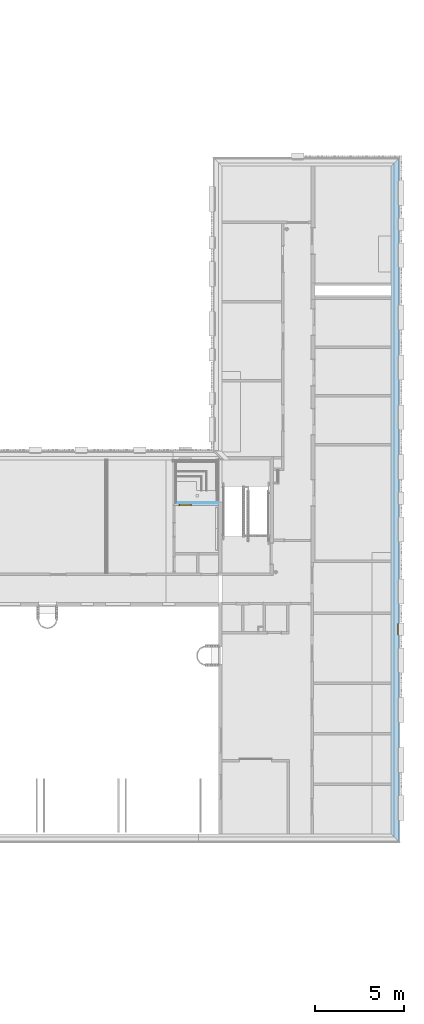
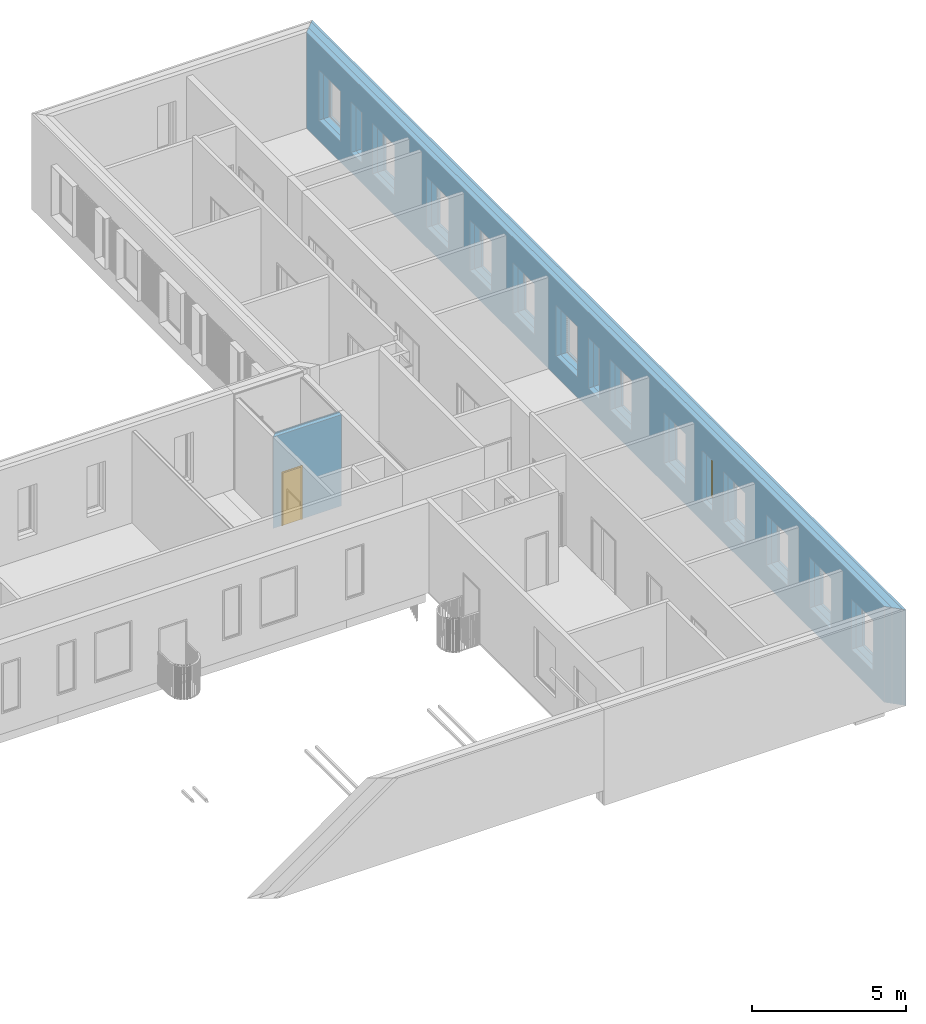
# One storey, part 69 of 100: 1 door, 1 window, 16 openings, 2 elements without a shape of their own, plus 7 elements that do not belong to this part.
"""IFC2X3 building model written with IfcOpenShell, lengths in millimetres."""

from ifc_helpers import new_model, entity, si_unit, converted_unit, derived_unit, money_unit, direction, frame, origin_with_axes, origin_2d_with_axis, place, context, subcontext, project, spatial, polyline, rectangle, outline, extrude, open_shell, faceted_brep, surface_model, material, type_object, element, fill, aggregate, save


model = new_model("IFC2X3")

# Units and contexts
model_context = context("Model", 3, precision=0.01, world=origin_with_axes(), true_north=direction((0.0, 1.0)))
body_context = subcontext(model_context, "Body", "Model", "MODEL_VIEW")
ifc_project = project(units=[si_unit("LENGTHUNIT", "METRE", prefix="MILLI"), si_unit("AREAUNIT", "SQUARE_METRE"), si_unit("VOLUMEUNIT", "CUBIC_METRE"), converted_unit("PLANEANGLEUNIT", "DEGREE", entity("IfcPlaneAngleMeasure", 0.0174532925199), si_unit("PLANEANGLEUNIT", "RADIAN"), dimensions=[0, 0, 0, 0, 0, 0, 0]), si_unit("SOLIDANGLEUNIT", "STERADIAN"), money_unit("EUR"), converted_unit("TIMEUNIT", "Year", entity("IfcTimeMeasure", 31556926.0), si_unit("TIMEUNIT", "SECOND"), dimensions=[0, 0, 1, 0, 0, 0, 0]), si_unit("MASSUNIT", "GRAM", prefix="KILO"), si_unit("THERMODYNAMICTEMPERATUREUNIT", "DEGREE_CELSIUS"), si_unit("LUMINOUSINTENSITYUNIT", "LUMEN"), si_unit("ENERGYUNIT", "JOULE", prefix="MEGA"), derived_unit("THERMALCONDUCTANCEUNIT", [(si_unit("POWERUNIT", "WATT"), 1), (si_unit("LENGTHUNIT", "METRE"), -1), (si_unit("THERMODYNAMICTEMPERATUREUNIT", "KELVIN"), -1)]), derived_unit("SPECIFICHEATCAPACITYUNIT", [(si_unit("ENERGYUNIT", "JOULE"), 1), (si_unit("MASSUNIT", "GRAM", prefix="KILO"), -1), (si_unit("THERMODYNAMICTEMPERATUREUNIT", "KELVIN"), -1)]), derived_unit("MASSDENSITYUNIT", [(si_unit("MASSUNIT", "GRAM", prefix="KILO"), 1), (si_unit("VOLUMEUNIT", "CUBIC_METRE"), -1)])], contexts=[model_context])

# Site, building, storey
site_placement = place(None, origin_with_axes())
site = spatial("IfcSite", under=ifc_project, at=site_placement, Name="Politse- ja Piirivalveameti ning Päästeameti ühishoone", CompositionType="ELEMENT")
building_placement = place(site_placement, origin_with_axes())
building = spatial("IfcBuilding", under=site, at=building_placement, Name="Politse- ja Piirivalveameti ning Päästeameti ühishoone", CompositionType="ELEMENT")
storey_placement = place(building_placement, frame((0.0, 0.0, 3800.0), z_axis=(0.0, 0.0, 1.0), x_axis=(1.0, 0.0, 0.0)))
storey = spatial("IfcBuildingStorey", under=building, at=storey_placement, Name="Teine korrus", CompositionType="ELEMENT", Elevation=3800.0)

# Window
window_style = type_object("IfcWindowStyle", Name="Window 23", ConstructionType="NOTDEFINED", OperationType="SINGLE_PANEL", ParameterTakesPrecedence=False, Sizeable=False)
wall_1_placement = place(storey_placement, frame((69660.5664257, 37499.9521318, 0.0), z_axis=(0.0, 0.0, 1.0), x_axis=(0.0, -1.0, 0.0)))
opening_13_placement = place(wall_1_placement, frame((26000.0000486, 0.0, 800.0), z_axis=(0.0, 0.0, 1.0), x_axis=(1.0, 0.0, 0.0)))
window_placement = place(opening_13_placement, frame((350.0, 0.0, 0.0), z_axis=(0.0, 0.0, 1.0), x_axis=(-1.0, 0.0, 0.0)))
window = element("IfcWindow", 1, at=window_placement, inside=storey, type_object=window_style, Name="A-01", ObjectType="WINDOW", OverallHeight=2000.0, OverallWidth=700.0, context=body_context, shape_type="SurfaceModel", body=[
    faceted_brep([(25.0, -380.0, 1950.0), (0.0, -380.0, 1950.0), (0.0, -430.0, 1950.0), (50.0, -430.0, 1950.0), (50.0, -405.0, 1950.0), (25.0, -405.0, 1950.0), (25.0, -380.0, 50.0), (0.0, -380.0, 50.0), (0.0, -430.0, 50.0), (50.0, -430.0, 50.0), (50.0, -405.0, 50.0), (25.0, -405.0, 50.0)], [[[0, 1, 2, 3, 4, 5]], [[6, 7, 1, 0]], [[1, 7, 8, 2]], [[2, 8, 9, 3]], [[4, 3, 9, 10]], [[10, 11, 5, 4]], [[5, 11, 6, 0]], [[11, 10, 9, 8, 7, 6]]]),
    faceted_brep([(650.0, -405.0, 1950.0), (650.0, -430.0, 1950.0), (700.0, -430.0, 1950.0), (700.0, -380.0, 1950.0), (675.0, -380.0, 1950.0), (675.0, -405.0, 1950.0), (650.0, -405.0, 50.0), (650.0, -430.0, 50.0), (700.0, -430.0, 50.0), (700.0, -380.0, 50.0), (675.0, -380.0, 50.0), (675.0, -405.0, 50.0)], [[[0, 1, 2, 3, 4, 5]], [[6, 7, 1, 0]], [[8, 2, 1, 7]], [[9, 3, 2, 8]], [[4, 3, 9, 10]], [[10, 11, 5, 4]], [[5, 11, 6, 0]], [[11, 10, 9, 8, 7, 6]]]),
    faceted_brep([(650.0, -405.0, 50.0), (650.0, -430.0, 50.0), (700.0, -430.0, 50.0), (700.0, -380.0, 50.0), (675.0, -380.0, 50.0), (675.0, -405.0, 50.0), (50.0, -405.0, 50.0), (50.0, -430.0, 50.0), (0.0, -430.0, 50.0), (0.0, -430.0, 0.0), (700.0, -430.0, 0.0), (700.0, -380.0, 0.0), (25.0, -380.0, 25.0), (675.0, -380.0, 25.0), (0.0, -380.0, 0.0), (0.0, -380.0, 50.0), (25.0, -380.0, 50.0), (675.0, -405.0, 25.0), (25.0, -405.0, 25.0), (25.0, -405.0, 50.0)], [[[0, 1, 2, 3, 4, 5]], [[6, 7, 1, 0]], [[8, 9, 10, 2, 1, 7]], [[11, 3, 2, 10]], [[12, 13, 4, 3, 11, 14, 15, 16]], [[13, 17, 5, 4]], [[5, 17, 18, 19, 6, 0]], [[19, 16, 15, 8, 7, 6]], [[15, 14, 9, 8]], [[14, 11, 10, 9]], [[12, 18, 17, 13]], [[19, 18, 12, 16]]]),
    faceted_brep([(25.0, -380.0, 1950.0), (0.0, -380.0, 1950.0), (0.0, -380.0, 2000.0), (700.0, -380.0, 2000.0), (700.0, -380.0, 1950.0), (675.0, -380.0, 1950.0), (675.0, -380.0, 1975.0), (25.0, -380.0, 1975.0), (25.0, -405.0, 1950.0), (50.0, -405.0, 1950.0), (50.0, -430.0, 1950.0), (0.0, -430.0, 1950.0), (0.0, -430.0, 2000.0), (700.0, -430.0, 2000.0), (700.0, -430.0, 1950.0), (675.0, -405.0, 1950.0), (650.0, -430.0, 1950.0), (650.0, -405.0, 1950.0), (675.0, -405.0, 1975.0), (25.0, -405.0, 1975.0)], [[[0, 1, 2, 3, 4, 5, 6, 7]], [[8, 9, 10, 11, 1, 0]], [[2, 1, 11, 12]], [[3, 2, 12, 13]], [[4, 3, 13, 14]], [[15, 5, 4, 14, 16, 17]], [[5, 15, 18, 6]], [[6, 18, 19, 7]], [[7, 19, 8, 0]], [[17, 9, 8, 19, 18, 15]], [[17, 16, 10, 9]], [[14, 13, 12, 11, 10, 16]]]),
    faceted_brep([(75.0, -405.0, 1925.0), (75.0, -355.0, 1925.0), (25.0, -355.0, 1925.0), (25.0, -405.0, 1925.0), (75.0, -405.0, 75.0), (75.0, -355.0, 75.0), (25.0, -355.0, 75.0), (25.0, -405.0, 75.0)], [[[0, 1, 2, 3]], [[4, 5, 1, 0]], [[1, 5, 6, 2]], [[3, 2, 6, 7]], [[0, 3, 7, 4]], [[7, 6, 5, 4]]]),
    faceted_brep([(625.0, -405.0, 75.0), (625.0, -355.0, 75.0), (675.0, -355.0, 75.0), (675.0, -405.0, 75.0), (625.0, -405.0, 1925.0), (625.0, -355.0, 1925.0), (675.0, -355.0, 1925.0), (675.0, -405.0, 1925.0)], [[[0, 1, 2, 3]], [[4, 5, 1, 0]], [[1, 5, 6, 2]], [[3, 2, 6, 7]], [[0, 3, 7, 4]], [[7, 6, 5, 4]]]),
    faceted_brep([(675.0, -405.0, 25.0), (675.0, -355.0, 25.0), (675.0, -355.0, 75.0), (675.0, -405.0, 75.0), (25.0, -405.0, 25.0), (25.0, -355.0, 25.0), (25.0, -355.0, 75.0), (75.0, -355.0, 75.0), (625.0, -355.0, 75.0), (625.0, -405.0, 75.0), (75.0, -405.0, 75.0), (25.0, -405.0, 75.0)], [[[0, 1, 2, 3]], [[4, 5, 1, 0]], [[1, 5, 6, 7, 8, 2]], [[3, 2, 8, 9]], [[0, 3, 9, 10, 11, 4]], [[11, 6, 5, 4]], [[10, 7, 6, 11]], [[9, 8, 7, 10]]]),
    faceted_brep([(25.0, -405.0, 1975.0), (25.0, -355.0, 1975.0), (25.0, -355.0, 1925.0), (25.0, -405.0, 1925.0), (675.0, -405.0, 1975.0), (675.0, -355.0, 1975.0), (675.0, -355.0, 1925.0), (625.0, -355.0, 1925.0), (75.0, -355.0, 1925.0), (75.0, -405.0, 1925.0), (625.0, -405.0, 1925.0), (675.0, -405.0, 1925.0)], [[[0, 1, 2, 3]], [[4, 5, 1, 0]], [[1, 5, 6, 7, 8, 2]], [[3, 2, 8, 9]], [[0, 3, 9, 10, 11, 4]], [[11, 6, 5, 4]], [[10, 7, 6, 11]], [[9, 8, 7, 10]]]),
    surface_model("IfcShellBasedSurfaceModel", [(75.0, -390.0, 75.0), (625.0, -390.0, 75.0), (625.0, -390.0, 1925.0), (75.0, -390.0, 1925.0)], [open_shell([[[0, 1, 2, 3]]])]),
    surface_model("IfcShellBasedSurfaceModel", [(75.0, -370.0, 75.0), (75.0, -370.0, 1925.0), (625.0, -370.0, 1925.0), (625.0, -370.0, 75.0)], [open_shell([[[0, 1, 2, 3]]])]),
])

# Door
door_style = type_object("IfcDoorStyle", Name="Door 23", ConstructionType="NOTDEFINED", OperationType="SINGLE_SWING_RIGHT", ParameterTakesPrecedence=False, Sizeable=False)
wall_2_placement = place(storey_placement, frame((59970.5519118, 18430.0421528, 0.0), z_axis=(0.0, 0.0, 1.0), x_axis=(-1.0, 0.0, 0.0)))
opening_16_placement = place(wall_2_placement, frame((1867.96393549, 0.0, 0.0), z_axis=(0.0, 0.0, 1.0), x_axis=(1.0, 0.0, 0.0)))
door_placement = place(opening_16_placement, frame((-350.0, 0.0, 0.0), z_axis=(0.0, 0.0, 1.0), x_axis=(1.0, 0.0, 0.0)))
door = element("IfcDoor", 2, at=door_placement, inside=storey, type_object=door_style, Name="SU-03-1", ObjectType="DOOR", OverallHeight=2100.0, OverallWidth=700.0, context=body_context, shape_type="Brep", body=[
    faceted_brep([(672.0, -40.0, 0.0), (672.0, -40.0, 12.0), (660.0, -40.0, 12.0), (660.0, -40.0, 0.0), (28.0, -40.0, 0.0), (28.0, -40.0, 12.0), (40.0, -40.0, 12.0), (40.0, -115.0, 12.0), (660.0, -115.0, 12.0), (660.0, -115.0, 0.0), (40.0, -115.0, 0.0), (40.0, -40.0, 0.0)], [[[0, 1, 2, 3]], [[4, 5, 1, 0]], [[1, 5, 6, 7, 8, 2]], [[3, 2, 8, 9]], [[0, 3, 9, 10, 11, 4]], [[11, 6, 5, 4]], [[10, 7, 6, 11]], [[9, 8, 7, 10]]]),
    faceted_brep([(0.0, -115.0, 0.0), (25.0, -115.0, 0.0), (25.0, -205.0, 0.0), (0.0, -205.0, 0.0), (0.0, -115.0, 2100.0), (25.0, -115.0, 2075.0), (25.0, -205.0, 2075.0), (0.0, -205.0, 2100.0)], [[[0, 1, 2, 3]], [[0, 4, 5, 1]], [[1, 5, 6, 2]], [[3, 2, 6, 7]], [[4, 0, 3, 7]], [[5, 4, 7, 6]]]),
    faceted_brep([(700.0, -115.0, 2100.0), (675.0, -115.0, 2075.0), (675.0, -205.0, 2075.0), (700.0, -205.0, 2100.0), (700.0, -115.0, 0.0), (675.0, -115.0, 0.0), (675.0, -205.0, 0.0), (700.0, -205.0, 0.0)], [[[0, 1, 2, 3]], [[0, 4, 5, 1]], [[1, 5, 6, 2]], [[3, 2, 6, 7]], [[4, 0, 3, 7]], [[5, 4, 7, 6]]]),
    faceted_brep([(25.0, -115.0, 2075.0), (675.0, -115.0, 2075.0), (675.0, -205.0, 2075.0), (25.0, -205.0, 2075.0), (0.0, -115.0, 2100.0), (700.0, -115.0, 2100.0), (700.0, -205.0, 2100.0), (0.0, -205.0, 2100.0)], [[[0, 1, 2, 3]], [[0, 4, 5, 1]], [[1, 5, 6, 2]], [[3, 2, 6, 7]], [[4, 0, 3, 7]], [[5, 4, 7, 6]]]),
    faceted_brep([(-37.0, -224.0, 0.0), (-37.0, -205.0, 0.0), (13.0, -205.0, 0.0), (13.0, -224.0, 0.0), (-37.0, -224.0, 2137.0), (-37.0, -205.0, 2137.0), (13.0, -205.0, 2087.0), (13.0, -224.0, 2087.0)], [[[0, 1, 2, 3]], [[4, 5, 1, 0]], [[1, 5, 6, 2]], [[3, 2, 6, 7]], [[0, 3, 7, 4]], [[7, 6, 5, 4]]]),
    faceted_brep([(737.0, -224.0, 2137.0), (737.0, -205.0, 2137.0), (687.0, -205.0, 2087.0), (687.0, -224.0, 2087.0), (737.0, -224.0, 0.0), (737.0, -205.0, 0.0), (687.0, -205.0, 0.0), (687.0, -224.0, 0.0)], [[[0, 1, 2, 3]], [[4, 5, 1, 0]], [[1, 5, 6, 2]], [[3, 2, 6, 7]], [[0, 3, 7, 4]], [[7, 6, 5, 4]]]),
    faceted_brep([(-37.0, -224.0, 2137.0), (-37.0, -205.0, 2137.0), (13.0, -205.0, 2087.0), (13.0, -224.0, 2087.0), (737.0, -224.0, 2137.0), (737.0, -205.0, 2137.0), (687.0, -205.0, 2087.0), (687.0, -224.0, 2087.0)], [[[0, 1, 2, 3]], [[4, 5, 1, 0]], [[1, 5, 6, 2]], [[3, 2, 6, 7]], [[0, 3, 7, 4]], [[7, 6, 5, 4]]]),
    faceted_brep([(-37.0, 19.0, 0.0), (13.0, 19.0, 0.0), (13.0, 0.0, 0.0), (-37.0, 0.0, 0.0), (-37.0, 19.0, 2137.0), (13.0, 19.0, 2087.0), (13.0, 0.0, 2087.0), (-37.0, 0.0, 2137.0)], [[[0, 1, 2, 3]], [[0, 4, 5, 1]], [[1, 5, 6, 2]], [[3, 2, 6, 7]], [[4, 0, 3, 7]], [[5, 4, 7, 6]]]),
    faceted_brep([(737.0, 19.0, 2137.0), (687.0, 19.0, 2087.0), (687.0, 0.0, 2087.0), (737.0, 0.0, 2137.0), (737.0, 19.0, 0.0), (687.0, 19.0, 0.0), (687.0, 0.0, 0.0), (737.0, 0.0, 0.0)], [[[0, 1, 2, 3]], [[0, 4, 5, 1]], [[1, 5, 6, 2]], [[3, 2, 6, 7]], [[4, 0, 3, 7]], [[5, 4, 7, 6]]]),
    faceted_brep([(-37.0, 19.0, 2137.0), (13.0, 19.0, 2087.0), (13.0, 0.0, 2087.0), (-37.0, 0.0, 2137.0), (737.0, 19.0, 2137.0), (687.0, 19.0, 2087.0), (687.0, 0.0, 2087.0), (737.0, 0.0, 2137.0)], [[[0, 1, 2, 3]], [[0, 4, 5, 1]], [[1, 5, 6, 2]], [[3, 2, 6, 7]], [[4, 0, 3, 7]], [[5, 4, 7, 6]]]),
    faceted_brep([(40.0, -40.0, 0.0), (40.0, -40.0, 2060.0), (40.0, -115.0, 2060.0), (40.0, -115.0, 0.0), (28.0, -40.0, 2060.0), (28.0, -40.0, 0.0), (28.0, 0.0, 2060.0), (0.0, 0.0, 2060.0), (0.0, -115.0, 2060.0), (0.0, -115.0, 0.0), (0.0, 0.0, 0.0), (28.0, 0.0, 0.0)], [[[0, 1, 2, 3]], [[4, 1, 0, 5]], [[4, 6, 7, 8, 2, 1]], [[3, 2, 8, 9]], [[5, 0, 3, 9, 10, 11]], [[6, 4, 5, 11]], [[6, 11, 10, 7]], [[10, 9, 8, 7]]]),
    faceted_brep([(672.0, -40.0, 2060.0), (660.0, -40.0, 2060.0), (660.0, -115.0, 2060.0), (700.0, -115.0, 2060.0), (700.0, 0.0, 2060.0), (672.0, 0.0, 2060.0), (672.0, -40.0, 0.0), (660.0, -40.0, 0.0), (660.0, -115.0, 0.0), (700.0, -115.0, 0.0), (700.0, 0.0, 0.0), (672.0, 0.0, 0.0)], [[[0, 1, 2, 3, 4, 5]], [[1, 0, 6, 7]], [[1, 7, 8, 2]], [[3, 2, 8, 9]], [[4, 3, 9, 10]], [[11, 5, 4, 10]], [[0, 5, 11, 6]], [[6, 11, 10, 9, 8, 7]]]),
    faceted_brep([(28.0, 0.0, 2072.0), (28.0, 0.0, 2060.0), (0.0, 0.0, 2060.0), (0.0, 0.0, 2100.0), (700.0, 0.0, 2100.0), (700.0, 0.0, 2060.0), (672.0, 0.0, 2060.0), (672.0, 0.0, 2072.0), (28.0, -40.0, 2072.0), (28.0, -40.0, 2060.0), (40.0, -40.0, 2060.0), (40.0, -115.0, 2060.0), (0.0, -115.0, 2060.0), (0.0, -115.0, 2100.0), (700.0, -115.0, 2100.0), (700.0, -115.0, 2060.0), (672.0, -40.0, 2060.0), (660.0, -115.0, 2060.0), (660.0, -40.0, 2060.0), (672.0, -40.0, 2072.0)], [[[0, 1, 2, 3, 4, 5, 6, 7]], [[1, 0, 8, 9]], [[9, 10, 11, 12, 2, 1]], [[2, 12, 13, 3]], [[3, 13, 14, 4]], [[4, 14, 15, 5]], [[16, 6, 5, 15, 17, 18]], [[7, 6, 16, 19]], [[0, 7, 19, 8]], [[16, 18, 10, 9, 8, 19]], [[10, 18, 17, 11]], [[17, 15, 14, 13, 12, 11]]]),
    faceted_brep([(672.0, 0.0, 0.0), (672.0, -40.0, 0.0), (28.0, -40.0, 0.0), (28.0, 0.0, 0.0), (672.0, 0.0, 2072.0), (672.0, -40.0, 2072.0), (28.0, -40.0, 2072.0), (28.0, 0.0, 2072.0)], [[[0, 1, 2, 3]], [[4, 5, 1, 0]], [[1, 5, 6, 2]], [[3, 2, 6, 7]], [[0, 3, 7, 4]], [[7, 6, 5, 4]]]),
])

# Wall, openings
wall_type_1 = type_object("IfcWallType", Name="VS-01_välissein 510", PredefinedType="NOTDEFINED")
wall_1 = element("IfcWall", 3, at=wall_1_placement, inside=storey, type_object=wall_type_1, Name="VS-01")
opening_1_placement = place(wall_1_placement, frame((8499.88188769, 0.0, 800.0), z_axis=(0.0, 0.0, 1.0), x_axis=(1.0, 0.0, 0.0)))
element("IfcOpeningElement", 4, at=opening_1_placement, cuts=wall_1, Name="A-02", context=body_context, shape_type="SweptSolid", body=[
    extrude(rectangle(XDim=1400.0, YDim=2000.0, at=origin_2d_with_axis()), frame((0.0, 430.0, 1000.0), z_axis=(0.0, 1.0, 0.0), x_axis=(-1.0, 0.0, 0.0)), (0.0, 0.0, -1.0), 940.0),
    extrude(rectangle(XDim=1400.0, YDim=2000.0, at=origin_2d_with_axis()), frame((0.0, 430.0, 1000.0), z_axis=(0.0, -1.0, 0.0), x_axis=(-1.0, 0.0, 0.0)), (0.0, 0.0, -1.0), 590.0),
])
opening_2_placement = place(wall_1_placement, frame((11299.8818877, 0.0, 800.0), z_axis=(0.0, 0.0, 1.0), x_axis=(1.0, 0.0, 0.0)))
element("IfcOpeningElement", 5, at=opening_2_placement, cuts=wall_1, Name="A-02", context=body_context, shape_type="SweptSolid", body=[
    extrude(rectangle(XDim=1400.0, YDim=2000.0, at=origin_2d_with_axis()), frame((0.0, 430.0, 1000.0), z_axis=(0.0, 1.0, 0.0), x_axis=(-1.0, 0.0, 0.0)), (0.0, 0.0, -1.0), 940.0),
    extrude(rectangle(XDim=1400.0, YDim=2000.0, at=origin_2d_with_axis()), frame((0.0, 430.0, 1000.0), z_axis=(0.0, -1.0, 0.0), x_axis=(-1.0, 0.0, 0.0)), (0.0, 0.0, -1.0), 590.0),
])
opening_3_placement = place(wall_1_placement, frame((16899.8818877, 0.0, 800.0), z_axis=(0.0, 0.0, 1.0), x_axis=(1.0, 0.0, 0.0)))
element("IfcOpeningElement", 6, at=opening_3_placement, cuts=wall_1, Name="A-02", context=body_context, shape_type="SweptSolid", body=[
    extrude(rectangle(XDim=1400.0, YDim=2000.0, at=origin_2d_with_axis()), frame((0.0, 430.0, 1000.0), z_axis=(0.0, 1.0, 0.0), x_axis=(-1.0, 0.0, 0.0)), (0.0, 0.0, -1.0), 940.0),
    extrude(rectangle(XDim=1400.0, YDim=2000.0, at=origin_2d_with_axis()), frame((0.0, 430.0, 1000.0), z_axis=(0.0, -1.0, 0.0), x_axis=(-1.0, 0.0, 0.0)), (0.0, 0.0, -1.0), 590.0),
])
opening_4_placement = place(wall_1_placement, frame((14099.8818877, 0.0, 800.0), z_axis=(0.0, 0.0, 1.0), x_axis=(1.0, 0.0, 0.0)))
element("IfcOpeningElement", 7, at=opening_4_placement, cuts=wall_1, Name="A-02", context=body_context, shape_type="SweptSolid", body=[
    extrude(rectangle(XDim=1400.0, YDim=2000.0, at=origin_2d_with_axis()), frame((0.0, 430.0, 1000.0), z_axis=(0.0, 1.0, 0.0), x_axis=(-1.0, 0.0, 0.0)), (0.0, 0.0, -1.0), 940.0),
    extrude(rectangle(XDim=1400.0, YDim=2000.0, at=origin_2d_with_axis()), frame((0.0, 430.0, 1000.0), z_axis=(0.0, -1.0, 0.0), x_axis=(-1.0, 0.0, 0.0)), (0.0, 0.0, -1.0), 590.0),
])
opening_5_placement = place(wall_1_placement, frame((23900.0000486, 0.0, 800.0), z_axis=(0.0, 0.0, 1.0), x_axis=(1.0, 0.0, 0.0)))
element("IfcOpeningElement", 8, at=opening_5_placement, cuts=wall_1, Name="A-02", context=body_context, shape_type="SweptSolid", body=[
    extrude(rectangle(XDim=1400.0, YDim=2000.0, at=origin_2d_with_axis()), frame((0.0, 430.0, 1000.0), z_axis=(0.0, 1.0, 0.0), x_axis=(-1.0, 0.0, 0.0)), (0.0, 0.0, -1.0), 940.0),
    extrude(rectangle(XDim=1400.0, YDim=2000.0, at=origin_2d_with_axis()), frame((0.0, 430.0, 1000.0), z_axis=(0.0, -1.0, 0.0), x_axis=(-1.0, 0.0, 0.0)), (0.0, 0.0, -1.0), 590.0),
])
opening_6_placement = place(wall_1_placement, frame((27750.0000486, 0.0, 800.0), z_axis=(0.0, 0.0, 1.0), x_axis=(1.0, 0.0, 0.0)))
element("IfcOpeningElement", 9, at=opening_6_placement, cuts=wall_1, Name="A-02", context=body_context, shape_type="SweptSolid", body=[
    extrude(rectangle(XDim=1400.0, YDim=2000.0, at=origin_2d_with_axis()), frame((0.0, 430.0, 1000.0), z_axis=(0.0, 1.0, 0.0), x_axis=(-1.0, 0.0, 0.0)), (0.0, 0.0, -1.0), 940.0),
    extrude(rectangle(XDim=1400.0, YDim=2000.0, at=origin_2d_with_axis()), frame((0.0, 430.0, 1000.0), z_axis=(0.0, -1.0, 0.0), x_axis=(-1.0, 0.0, 0.0)), (0.0, 0.0, -1.0), 590.0),
])
opening_7_placement = place(wall_1_placement, frame((30550.0000486, 0.0, 800.0), z_axis=(0.0, 0.0, 1.0), x_axis=(1.0, 0.0, 0.0)))
element("IfcOpeningElement", 10, at=opening_7_placement, cuts=wall_1, Name="A-02", context=body_context, shape_type="SweptSolid", body=[
    extrude(rectangle(XDim=1400.0, YDim=2000.0, at=origin_2d_with_axis()), frame((0.0, 430.0, 1000.0), z_axis=(0.0, 1.0, 0.0), x_axis=(-1.0, 0.0, 0.0)), (0.0, 0.0, -1.0), 940.0),
    extrude(rectangle(XDim=1400.0, YDim=2000.0, at=origin_2d_with_axis()), frame((0.0, 430.0, 1000.0), z_axis=(0.0, -1.0, 0.0), x_axis=(-1.0, 0.0, 0.0)), (0.0, 0.0, -1.0), 590.0),
])
opening_8_placement = place(wall_1_placement, frame((36050.0000486, 0.0, 800.0), z_axis=(0.0, 0.0, 1.0), x_axis=(1.0, 0.0, 0.0)))
element("IfcOpeningElement", 11, at=opening_8_placement, cuts=wall_1, Name="A-02", context=body_context, shape_type="SweptSolid", body=[
    extrude(rectangle(XDim=1400.0, YDim=2000.0, at=origin_2d_with_axis()), frame((0.0, 430.0, 1000.0), z_axis=(0.0, 1.0, 0.0), x_axis=(-1.0, 0.0, 0.0)), (0.0, 0.0, -1.0), 940.0),
    extrude(rectangle(XDim=1400.0, YDim=2000.0, at=origin_2d_with_axis()), frame((0.0, 430.0, 1000.0), z_axis=(0.0, -1.0, 0.0), x_axis=(-1.0, 0.0, 0.0)), (0.0, 0.0, -1.0), 590.0),
])
opening_9_placement = place(wall_1_placement, frame((33350.0000486, 0.0, 800.0), z_axis=(0.0, 0.0, 1.0), x_axis=(1.0, 0.0, 0.0)))
element("IfcOpeningElement", 12, at=opening_9_placement, cuts=wall_1, Name="A-02", context=body_context, shape_type="SweptSolid", body=[
    extrude(rectangle(XDim=1400.0, YDim=2000.0, at=origin_2d_with_axis()), frame((0.0, 430.0, 1000.0), z_axis=(0.0, 1.0, 0.0), x_axis=(-1.0, 0.0, 0.0)), (0.0, 0.0, -1.0), 940.0),
    extrude(rectangle(XDim=1400.0, YDim=2000.0, at=origin_2d_with_axis()), frame((0.0, 430.0, 1000.0), z_axis=(0.0, -1.0, 0.0), x_axis=(-1.0, 0.0, 0.0)), (0.0, 0.0, -1.0), 590.0),
])
opening_10_placement = place(wall_1_placement, frame((4999.88188769, 0.0, 800.0), z_axis=(0.0, 0.0, 1.0), x_axis=(1.0, 0.0, 0.0)))
element("IfcOpeningElement", 13, at=opening_10_placement, cuts=wall_1, Name="A-02", context=body_context, shape_type="SweptSolid", body=[
    extrude(rectangle(XDim=1400.0, YDim=2000.0, at=origin_2d_with_axis()), frame((0.0, 430.0, 1000.0), z_axis=(0.0, 1.0, 0.0), x_axis=(-1.0, 0.0, 0.0)), (0.0, 0.0, -1.0), 940.0),
    extrude(rectangle(XDim=1400.0, YDim=2000.0, at=origin_2d_with_axis()), frame((0.0, 430.0, 1000.0), z_axis=(0.0, -1.0, 0.0), x_axis=(-1.0, 0.0, 0.0)), (0.0, 0.0, -1.0), 590.0),
])
opening_11_placement = place(wall_1_placement, frame((3250.00004858, 0.0, 800.0), z_axis=(0.0, 0.0, 1.0), x_axis=(1.0, 0.0, 0.0)))
element("IfcOpeningElement", 14, at=opening_11_placement, cuts=wall_1, Name="A-01", context=body_context, shape_type="SweptSolid", body=[
    extrude(rectangle(XDim=700.0, YDim=2000.0, at=origin_2d_with_axis()), frame((0.0, 430.0, 1000.0), z_axis=(0.0, 1.0, 0.0), x_axis=(-1.0, 0.0, 0.0)), (0.0, 0.0, -1.0), 940.0),
    extrude(rectangle(XDim=700.0, YDim=2000.0, at=origin_2d_with_axis()), frame((0.0, 430.0, 1000.0), z_axis=(0.0, -1.0, 0.0), x_axis=(-1.0, 0.0, 0.0)), (0.0, 0.0, -1.0), 590.0),
])
opening_12_placement = place(wall_1_placement, frame((1500.00004858, 0.0, 800.0), z_axis=(0.0, 0.0, 1.0), x_axis=(1.0, 0.0, 0.0)))
element("IfcOpeningElement", 15, at=opening_12_placement, cuts=wall_1, Name="A-02", context=body_context, shape_type="SweptSolid", body=[
    extrude(rectangle(XDim=1400.0, YDim=2000.0, at=origin_2d_with_axis()), frame((0.0, 430.0, 1000.0), z_axis=(0.0, 1.0, 0.0), x_axis=(-1.0, 0.0, 0.0)), (0.0, 0.0, -1.0), 940.0),
    extrude(rectangle(XDim=1400.0, YDim=2000.0, at=origin_2d_with_axis()), frame((0.0, 430.0, 1000.0), z_axis=(0.0, -1.0, 0.0), x_axis=(-1.0, 0.0, 0.0)), (0.0, 0.0, -1.0), 590.0),
])
opening_13 = element("IfcOpeningElement", 16, at=opening_13_placement, cuts=wall_1, Name="A-01", context=body_context, shape_type="SweptSolid", body=[
    extrude(rectangle(XDim=700.0, YDim=2000.0, at=origin_2d_with_axis()), frame((0.0, 430.0, 1000.0), z_axis=(0.0, 1.0, 0.0), x_axis=(-1.0, 0.0, 0.0)), (0.0, 0.0, -1.0), 940.0),
    extrude(rectangle(XDim=700.0, YDim=2000.0, at=origin_2d_with_axis()), frame((0.0, 430.0, 1000.0), z_axis=(0.0, -1.0, 0.0), x_axis=(-1.0, 0.0, 0.0)), (0.0, 0.0, -1.0), 590.0),
])

fill(opening_13, window)

# Opening
opening_14_placement = place(wall_1_placement, frame((20400.0000486, 0.0, 800.0), z_axis=(0.0, 0.0, 1.0), x_axis=(1.0, 0.0, 0.0)))
element("IfcOpeningElement", 17, at=opening_14_placement, cuts=wall_1, Name="A-02", context=body_context, shape_type="SweptSolid", body=[
    extrude(rectangle(XDim=1400.0, YDim=2000.0, at=origin_2d_with_axis()), frame((0.0, 430.0, 1000.0), z_axis=(0.0, 1.0, 0.0), x_axis=(-1.0, 0.0, 0.0)), (0.0, 0.0, -1.0), 940.0),
    extrude(rectangle(XDim=1400.0, YDim=2000.0, at=origin_2d_with_axis()), frame((0.0, 430.0, 1000.0), z_axis=(0.0, -1.0, 0.0), x_axis=(-1.0, 0.0, 0.0)), (0.0, 0.0, -1.0), 590.0),
])

opening_15_placement = place(wall_1_placement, frame((18650.0000486, 0.0, 800.0), z_axis=(0.0, 0.0, 1.0), x_axis=(1.0, 0.0, 0.0)))
element("IfcOpeningElement", 18, at=opening_15_placement, cuts=wall_1, Name="A-01", context=body_context, shape_type="SweptSolid", body=[
    extrude(rectangle(XDim=700.0, YDim=2000.0, at=origin_2d_with_axis()), frame((0.0, 430.0, 1000.0), z_axis=(0.0, 1.0, 0.0), x_axis=(-1.0, 0.0, 0.0)), (0.0, 0.0, -1.0), 940.0),
    extrude(rectangle(XDim=700.0, YDim=2000.0, at=origin_2d_with_axis()), frame((0.0, 430.0, 1000.0), z_axis=(0.0, -1.0, 0.0), x_axis=(-1.0, 0.0, 0.0)), (0.0, 0.0, -1.0), 590.0),
])

# Building element part
ifc_material_1 = material(Name="KON-04_Betoon - Konstuktsioon")
building_element_part_1_placement = place(wall_1_placement, origin_with_axes())
building_element_part_1 = element("IfcBuildingElementPart", 19, at=building_element_part_1_placement, material=ifc_material_1, Name="KON-04_Betoon - Konstuktsioon", context=body_context, shape_type="SweptSolid", body=[
    extrude(outline(polyline([(0.0, 0.0), (37499.9521318, 0.0), (37679.9521318, 180.0), (-180.0, 180.0), (0.0, 0.0)])), origin_with_axes(), (0.0, 0.0, 1.0), 3800.0),
])

ifc_material_2 = material(Name="SOJ-06_Soojustus - Plastik Kõva")
building_element_part_2_placement = place(wall_1_placement, origin_with_axes())
building_element_part_2 = element("IfcBuildingElementPart", 20, at=building_element_part_2_placement, material=ifc_material_2, Name="SOJ-06_Soojustus - Plastik Kõva", context=body_context, shape_type="SweptSolid", body=[
    extrude(outline(polyline([(-180.0, 180.0), (37679.9521318, 180.0), (37929.9521318, 430.0), (-430.0, 430.0), (-180.0, 180.0)])), origin_with_axes(), (0.0, 0.0, 1.0), 3800.0),
])

building_element_part_3_placement = place(wall_1_placement, origin_with_axes())
building_element_part_3 = element("IfcBuildingElementPart", 21, at=building_element_part_3_placement, material=ifc_material_1, Name="KON-04_Betoon - Konstuktsioon", context=body_context, shape_type="SweptSolid", body=[
    extrude(outline(polyline([(-430.0, 430.0), (37929.9521318, 430.0), (38009.9521318, 510.0), (-510.0, 510.0), (-430.0, 430.0)])), origin_with_axes(), (0.0, 0.0, 1.0), 3800.0),
])

aggregate(wall_1, [building_element_part_1, building_element_part_2, building_element_part_3])

# Wall, opening
wall_type_2 = type_object("IfcWallType", Name="SS-07_Sisesein - leiliruum 205", PredefinedType="NOTDEFINED")
wall_2 = element("IfcWall", 22, at=wall_2_placement, inside=storey, type_object=wall_type_2, Name="SS-07")
opening_16 = element("IfcOpeningElement", 23, at=opening_16_placement, cuts=wall_2, Name="SU-03-1", context=body_context, shape_type="SweptSolid", body=[
    extrude(rectangle(XDim=700.0, YDim=2100.0, at=origin_2d_with_axis()), frame((0.0, -205.0, 1050.0), z_axis=(0.0, 1.0, 0.0), x_axis=(1.0, 0.0, 0.0)), (0.0, 0.0, 1.0), 615.0),
    extrude(rectangle(XDim=774.0, YDim=2137.0, at=origin_2d_with_axis()), frame((0.0, -205.0, 1068.5), z_axis=(0.0, 1.0, 0.0), x_axis=(1.0, 0.0, 0.0)), (0.0, 0.0, -1.0), 205.0),
    extrude(rectangle(XDim=774.0, YDim=2137.0, at=origin_2d_with_axis()), frame((0.0, 0.0, 1068.5), z_axis=(0.0, -1.0, 0.0), x_axis=(1.0, 0.0, 0.0)), (0.0, 0.0, -1.0), 205.0),
])

fill(opening_16, door)

# Building element part
ifc_material_3 = material(Name="ET-01_Puit - Konstruktsioon")
building_element_part_4_placement = place(wall_2_placement, origin_with_axes())
building_element_part_4 = element("IfcBuildingElementPart", 24, at=building_element_part_4_placement, material=ifc_material_3, Name="ET-01_Puit - Konstruktsioon", context=body_context, shape_type="SweptSolid", body=[
    extrude(outline(polyline([(0.0, -205.0), (2364.96215791, -205.0), (2379.9615906, -190.0), (0.658536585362, -190.0), (0.0, -205.0)])), origin_with_axes(), (0.0, 0.0, 1.0), 3620.0),
])

ifc_material_4 = material(Name="Õhkvahe - Raam")
building_element_part_5_placement = place(wall_2_placement, origin_with_axes())
building_element_part_5 = element("IfcBuildingElementPart", 25, at=building_element_part_5_placement, material=ifc_material_4, Name="Õhkvahe - Raam", context=body_context, shape_type="SweptSolid", body=[
    extrude(outline(polyline([(0.658536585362, -190.0), (2379.9615906, -190.0), (2399.96083418, -170.0), (1.53658536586, -170.0), (0.658536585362, -190.0)])), origin_with_axes(), (0.0, 0.0, 1.0), 3620.0),
])

ifc_material_5 = material(Name="SOJ-02_Soojustus - Fiiber Kõva")
building_element_part_6_placement = place(wall_2_placement, origin_with_axes())
building_element_part_6 = element("IfcBuildingElementPart", 26, at=building_element_part_6_placement, material=ifc_material_5, Name="SOJ-02_Soojustus - Fiiber Kõva", context=body_context, shape_type="SweptSolid", body=[
    extrude(outline(polyline([(1.53658536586, -170.0), (2399.96083418, -170.0), (2429.95969956, -140.0), (2.85365853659, -140.0), (1.53658536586, -170.0)])), origin_with_axes(), (0.0, 0.0, 1.0), 3620.0),
])

ifc_material_6 = material(Name="KON-05_Betoon Plokk - Konstuktsioon")
building_element_part_7_placement = place(wall_2_placement, origin_with_axes())
building_element_part_7 = element("IfcBuildingElementPart", 27, at=building_element_part_7_placement, material=ifc_material_6, Name="KON-05_Betoon Plokk - Konstuktsioon", context=body_context, shape_type="SweptSolid", body=[
    extrude(outline(polyline([(2.85365853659, -140.0), (2429.95969956, -140.0), (2569.95440464, 0.0), (9.0, 0.0), (2.85365853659, -140.0)])), origin_with_axes(), (0.0, 0.0, 1.0), 3620.0),
])

aggregate(wall_2, [building_element_part_4, building_element_part_5, building_element_part_6, building_element_part_7])

save(model, "model.ifc")
